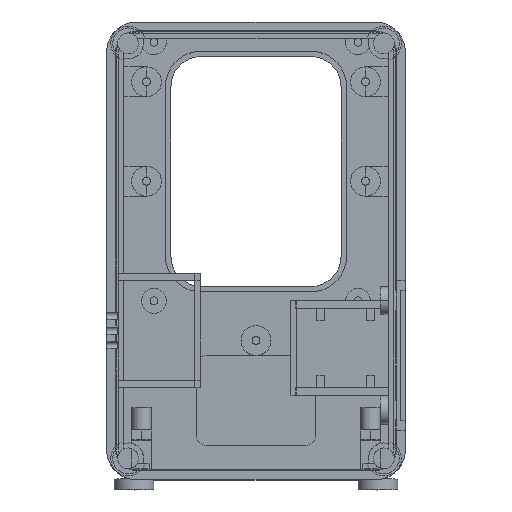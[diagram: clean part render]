
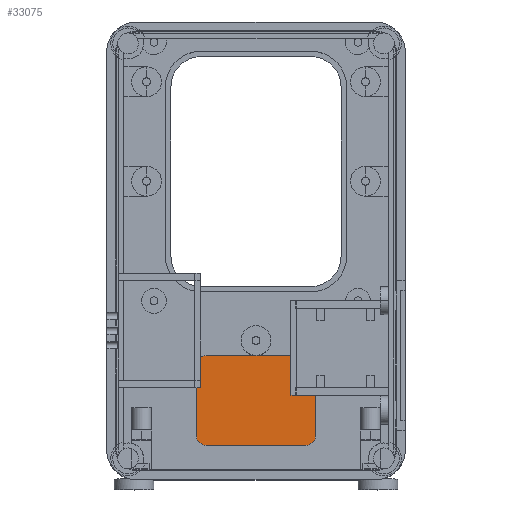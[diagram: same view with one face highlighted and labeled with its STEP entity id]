
A CAD part, top view. The second image highlights one B-rep face of the part: STEP entity #33075.
In plain terms, the highlighted planar face has unit normal (0, 0, 1).
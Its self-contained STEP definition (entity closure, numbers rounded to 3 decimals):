
#21439 = CYLINDRICAL_SURFACE('',#21440,2.);
#21440 = AXIS2_PLACEMENT_3D('',#21441,#21442,#21443);
#21441 = CARTESIAN_POINT('',(20.,23.,1.2));
#21442 = DIRECTION('',(-0.,0.,-1.));
#21443 = DIRECTION('',(0.,1.,0.));
#21466 = PLANE('',#21467);
#21467 = AXIS2_PLACEMENT_3D('',#21468,#21469,#21470);
#21468 = CARTESIAN_POINT('',(40.,25.,1.2));
#21469 = DIRECTION('',(0.,-1.,0.));
#21470 = DIRECTION('',(-1.,0.,0.));
#21519 = CYLINDRICAL_SURFACE('',#21520,2.);
#21520 = AXIS2_PLACEMENT_3D('',#21521,#21522,#21523);
#21521 = CARTESIAN_POINT('',(40.,23.,1.2));
#21522 = DIRECTION('',(-0.,-0.,-1.));
#21523 = DIRECTION('',(1.,0.,-0.));
#21546 = PLANE('',#21547);
#21547 = AXIS2_PLACEMENT_3D('',#21548,#21549,#21550);
#21548 = CARTESIAN_POINT('',(42.,9.,1.2));
#21549 = DIRECTION('',(-1.,0.,0.));
#21550 = DIRECTION('',(0.,1.,0.));
#21578 = CYLINDRICAL_SURFACE('',#21579,2.);
#21579 = AXIS2_PLACEMENT_3D('',#21580,#21581,#21582);
#21580 = CARTESIAN_POINT('',(40.,9.,1.2));
#21581 = DIRECTION('',(-0.,-0.,-1.));
#21582 = DIRECTION('',(0.,-1.,0.));
#21605 = PLANE('',#21606);
#21606 = AXIS2_PLACEMENT_3D('',#21607,#21608,#21609);
#21607 = CARTESIAN_POINT('',(20.,7.,1.2));
#21608 = DIRECTION('',(0.,1.,0.));
#21609 = DIRECTION('',(1.,0.,0.));
#21637 = CYLINDRICAL_SURFACE('',#21638,2.);
#21638 = AXIS2_PLACEMENT_3D('',#21639,#21640,#21641);
#21639 = CARTESIAN_POINT('',(20.,9.,1.2));
#21640 = DIRECTION('',(-0.,-0.,-1.));
#21641 = DIRECTION('',(-1.,0.,0.));
#21662 = PLANE('',#21663);
#21663 = AXIS2_PLACEMENT_3D('',#21664,#21665,#21666);
#21664 = CARTESIAN_POINT('',(18.,23.,1.2));
#21665 = DIRECTION('',(1.,0.,-0.));
#21666 = DIRECTION('',(0.,-1.,0.));
#27566 = EDGE_CURVE('',#27567,#27569,#27571,.T.);
#27567 = VERTEX_POINT('',#27568);
#27568 = CARTESIAN_POINT('',(20.,25.,1.2));
#27569 = VERTEX_POINT('',#27570);
#27570 = CARTESIAN_POINT('',(18.,23.,1.2));
#27571 = SURFACE_CURVE('',#27572,(#27577,#27584),.PCURVE_S1.);
#27572 = CIRCLE('',#27573,2.);
#27573 = AXIS2_PLACEMENT_3D('',#27574,#27575,#27576);
#27574 = CARTESIAN_POINT('',(20.,23.,1.2));
#27575 = DIRECTION('',(0.,-0.,1.));
#27576 = DIRECTION('',(0.,1.,0.));
#27577 = PCURVE('',#21439,#27578);
#27578 = DEFINITIONAL_REPRESENTATION('',(#27579),#27583);
#27579 = LINE('',#27580,#27581);
#27580 = CARTESIAN_POINT('',(-0.,0.));
#27581 = VECTOR('',#27582,1.);
#27582 = DIRECTION('',(-1.,0.));
#27583 = ( GEOMETRIC_REPRESENTATION_CONTEXT(2) 
PARAMETRIC_REPRESENTATION_CONTEXT() REPRESENTATION_CONTEXT('2D SPACE',''
  ) );
#27584 = PCURVE('',#27585,#27590);
#27585 = PLANE('',#27586);
#27586 = AXIS2_PLACEMENT_3D('',#27587,#27588,#27589);
#27587 = CARTESIAN_POINT('',(30.,16.,1.2));
#27588 = DIRECTION('',(0.,0.,1.));
#27589 = DIRECTION('',(1.,0.,-0.));
#27590 = DEFINITIONAL_REPRESENTATION('',(#27591),#27595);
#27591 = CIRCLE('',#27592,2.);
#27592 = AXIS2_PLACEMENT_2D('',#27593,#27594);
#27593 = CARTESIAN_POINT('',(-10.,7.));
#27594 = DIRECTION('',(0.,1.));
#27595 = ( GEOMETRIC_REPRESENTATION_CONTEXT(2) 
PARAMETRIC_REPRESENTATION_CONTEXT() REPRESENTATION_CONTEXT('2D SPACE',''
  ) );
#27643 = EDGE_CURVE('',#27569,#27644,#27646,.T.);
#27644 = VERTEX_POINT('',#27645);
#27645 = CARTESIAN_POINT('',(18.,9.,1.2));
#27646 = SURFACE_CURVE('',#27647,(#27651,#27658),.PCURVE_S1.);
#27647 = LINE('',#27648,#27649);
#27648 = CARTESIAN_POINT('',(18.,23.,1.2));
#27649 = VECTOR('',#27650,1.);
#27650 = DIRECTION('',(0.,-1.,0.));
#27651 = PCURVE('',#21662,#27652);
#27652 = DEFINITIONAL_REPRESENTATION('',(#27653),#27657);
#27653 = LINE('',#27654,#27655);
#27654 = CARTESIAN_POINT('',(0.,0.));
#27655 = VECTOR('',#27656,1.);
#27656 = DIRECTION('',(1.,0.));
#27657 = ( GEOMETRIC_REPRESENTATION_CONTEXT(2) 
PARAMETRIC_REPRESENTATION_CONTEXT() REPRESENTATION_CONTEXT('2D SPACE',''
  ) );
#27658 = PCURVE('',#27585,#27659);
#27659 = DEFINITIONAL_REPRESENTATION('',(#27660),#27664);
#27660 = LINE('',#27661,#27662);
#27661 = CARTESIAN_POINT('',(-12.,7.));
#27662 = VECTOR('',#27663,1.);
#27663 = DIRECTION('',(0.,-1.));
#27664 = ( GEOMETRIC_REPRESENTATION_CONTEXT(2) 
PARAMETRIC_REPRESENTATION_CONTEXT() REPRESENTATION_CONTEXT('2D SPACE',''
  ) );
#27692 = EDGE_CURVE('',#27644,#27693,#27695,.T.);
#27693 = VERTEX_POINT('',#27694);
#27694 = CARTESIAN_POINT('',(20.,7.,1.2));
#27695 = SURFACE_CURVE('',#27696,(#27701,#27708),.PCURVE_S1.);
#27696 = CIRCLE('',#27697,2.);
#27697 = AXIS2_PLACEMENT_3D('',#27698,#27699,#27700);
#27698 = CARTESIAN_POINT('',(20.,9.,1.2));
#27699 = DIRECTION('',(0.,0.,1.));
#27700 = DIRECTION('',(-1.,0.,0.));
#27701 = PCURVE('',#21637,#27702);
#27702 = DEFINITIONAL_REPRESENTATION('',(#27703),#27707);
#27703 = LINE('',#27704,#27705);
#27704 = CARTESIAN_POINT('',(-0.,0.));
#27705 = VECTOR('',#27706,1.);
#27706 = DIRECTION('',(-1.,0.));
#27707 = ( GEOMETRIC_REPRESENTATION_CONTEXT(2) 
PARAMETRIC_REPRESENTATION_CONTEXT() REPRESENTATION_CONTEXT('2D SPACE',''
  ) );
#27708 = PCURVE('',#27585,#27709);
#27709 = DEFINITIONAL_REPRESENTATION('',(#27710),#27714);
#27710 = CIRCLE('',#27711,2.);
#27711 = AXIS2_PLACEMENT_2D('',#27712,#27713);
#27712 = CARTESIAN_POINT('',(-10.,-7.));
#27713 = DIRECTION('',(-1.,0.));
#27714 = ( GEOMETRIC_REPRESENTATION_CONTEXT(2) 
PARAMETRIC_REPRESENTATION_CONTEXT() REPRESENTATION_CONTEXT('2D SPACE',''
  ) );
#27742 = EDGE_CURVE('',#27693,#27743,#27745,.T.);
#27743 = VERTEX_POINT('',#27744);
#27744 = CARTESIAN_POINT('',(40.,7.,1.2));
#27745 = SURFACE_CURVE('',#27746,(#27750,#27757),.PCURVE_S1.);
#27746 = LINE('',#27747,#27748);
#27747 = CARTESIAN_POINT('',(20.,7.,1.2));
#27748 = VECTOR('',#27749,1.);
#27749 = DIRECTION('',(1.,0.,0.));
#27750 = PCURVE('',#21605,#27751);
#27751 = DEFINITIONAL_REPRESENTATION('',(#27752),#27756);
#27752 = LINE('',#27753,#27754);
#27753 = CARTESIAN_POINT('',(0.,0.));
#27754 = VECTOR('',#27755,1.);
#27755 = DIRECTION('',(1.,0.));
#27756 = ( GEOMETRIC_REPRESENTATION_CONTEXT(2) 
PARAMETRIC_REPRESENTATION_CONTEXT() REPRESENTATION_CONTEXT('2D SPACE',''
  ) );
#27757 = PCURVE('',#27585,#27758);
#27758 = DEFINITIONAL_REPRESENTATION('',(#27759),#27763);
#27759 = LINE('',#27760,#27761);
#27760 = CARTESIAN_POINT('',(-10.,-9.));
#27761 = VECTOR('',#27762,1.);
#27762 = DIRECTION('',(1.,0.));
#27763 = ( GEOMETRIC_REPRESENTATION_CONTEXT(2) 
PARAMETRIC_REPRESENTATION_CONTEXT() REPRESENTATION_CONTEXT('2D SPACE',''
  ) );
#27791 = EDGE_CURVE('',#27743,#27792,#27794,.T.);
#27792 = VERTEX_POINT('',#27793);
#27793 = CARTESIAN_POINT('',(42.,9.,1.2));
#27794 = SURFACE_CURVE('',#27795,(#27800,#27807),.PCURVE_S1.);
#27795 = CIRCLE('',#27796,2.);
#27796 = AXIS2_PLACEMENT_3D('',#27797,#27798,#27799);
#27797 = CARTESIAN_POINT('',(40.,9.,1.2));
#27798 = DIRECTION('',(0.,0.,1.));
#27799 = DIRECTION('',(0.,-1.,0.));
#27800 = PCURVE('',#21578,#27801);
#27801 = DEFINITIONAL_REPRESENTATION('',(#27802),#27806);
#27802 = LINE('',#27803,#27804);
#27803 = CARTESIAN_POINT('',(-0.,0.));
#27804 = VECTOR('',#27805,1.);
#27805 = DIRECTION('',(-1.,0.));
#27806 = ( GEOMETRIC_REPRESENTATION_CONTEXT(2) 
PARAMETRIC_REPRESENTATION_CONTEXT() REPRESENTATION_CONTEXT('2D SPACE',''
  ) );
#27807 = PCURVE('',#27585,#27808);
#27808 = DEFINITIONAL_REPRESENTATION('',(#27809),#27813);
#27809 = CIRCLE('',#27810,2.);
#27810 = AXIS2_PLACEMENT_2D('',#27811,#27812);
#27811 = CARTESIAN_POINT('',(10.,-7.));
#27812 = DIRECTION('',(0.,-1.));
#27813 = ( GEOMETRIC_REPRESENTATION_CONTEXT(2) 
PARAMETRIC_REPRESENTATION_CONTEXT() REPRESENTATION_CONTEXT('2D SPACE',''
  ) );
#27841 = EDGE_CURVE('',#27792,#27842,#27844,.T.);
#27842 = VERTEX_POINT('',#27843);
#27843 = CARTESIAN_POINT('',(42.,23.,1.2));
#27844 = SURFACE_CURVE('',#27845,(#27849,#27856),.PCURVE_S1.);
#27845 = LINE('',#27846,#27847);
#27846 = CARTESIAN_POINT('',(42.,9.,1.2));
#27847 = VECTOR('',#27848,1.);
#27848 = DIRECTION('',(0.,1.,0.));
#27849 = PCURVE('',#21546,#27850);
#27850 = DEFINITIONAL_REPRESENTATION('',(#27851),#27855);
#27851 = LINE('',#27852,#27853);
#27852 = CARTESIAN_POINT('',(0.,0.));
#27853 = VECTOR('',#27854,1.);
#27854 = DIRECTION('',(1.,0.));
#27855 = ( GEOMETRIC_REPRESENTATION_CONTEXT(2) 
PARAMETRIC_REPRESENTATION_CONTEXT() REPRESENTATION_CONTEXT('2D SPACE',''
  ) );
#27856 = PCURVE('',#27585,#27857);
#27857 = DEFINITIONAL_REPRESENTATION('',(#27858),#27862);
#27858 = LINE('',#27859,#27860);
#27859 = CARTESIAN_POINT('',(12.,-7.));
#27860 = VECTOR('',#27861,1.);
#27861 = DIRECTION('',(0.,1.));
#27862 = ( GEOMETRIC_REPRESENTATION_CONTEXT(2) 
PARAMETRIC_REPRESENTATION_CONTEXT() REPRESENTATION_CONTEXT('2D SPACE',''
  ) );
#27890 = EDGE_CURVE('',#27842,#27891,#27893,.T.);
#27891 = VERTEX_POINT('',#27892);
#27892 = CARTESIAN_POINT('',(40.,25.,1.2));
#27893 = SURFACE_CURVE('',#27894,(#27899,#27906),.PCURVE_S1.);
#27894 = CIRCLE('',#27895,2.);
#27895 = AXIS2_PLACEMENT_3D('',#27896,#27897,#27898);
#27896 = CARTESIAN_POINT('',(40.,23.,1.2));
#27897 = DIRECTION('',(0.,0.,1.));
#27898 = DIRECTION('',(1.,0.,-0.));
#27899 = PCURVE('',#21519,#27900);
#27900 = DEFINITIONAL_REPRESENTATION('',(#27901),#27905);
#27901 = LINE('',#27902,#27903);
#27902 = CARTESIAN_POINT('',(-0.,0.));
#27903 = VECTOR('',#27904,1.);
#27904 = DIRECTION('',(-1.,0.));
#27905 = ( GEOMETRIC_REPRESENTATION_CONTEXT(2) 
PARAMETRIC_REPRESENTATION_CONTEXT() REPRESENTATION_CONTEXT('2D SPACE',''
  ) );
#27906 = PCURVE('',#27585,#27907);
#27907 = DEFINITIONAL_REPRESENTATION('',(#27908),#27912);
#27908 = CIRCLE('',#27909,2.);
#27909 = AXIS2_PLACEMENT_2D('',#27910,#27911);
#27910 = CARTESIAN_POINT('',(10.,7.));
#27911 = DIRECTION('',(1.,0.));
#27912 = ( GEOMETRIC_REPRESENTATION_CONTEXT(2) 
PARAMETRIC_REPRESENTATION_CONTEXT() REPRESENTATION_CONTEXT('2D SPACE',''
  ) );
#27940 = EDGE_CURVE('',#27891,#27567,#27941,.T.);
#27941 = SURFACE_CURVE('',#27942,(#27946,#27953),.PCURVE_S1.);
#27942 = LINE('',#27943,#27944);
#27943 = CARTESIAN_POINT('',(40.,25.,1.2));
#27944 = VECTOR('',#27945,1.);
#27945 = DIRECTION('',(-1.,0.,0.));
#27946 = PCURVE('',#21466,#27947);
#27947 = DEFINITIONAL_REPRESENTATION('',(#27948),#27952);
#27948 = LINE('',#27949,#27950);
#27949 = CARTESIAN_POINT('',(0.,-0.));
#27950 = VECTOR('',#27951,1.);
#27951 = DIRECTION('',(1.,0.));
#27952 = ( GEOMETRIC_REPRESENTATION_CONTEXT(2) 
PARAMETRIC_REPRESENTATION_CONTEXT() REPRESENTATION_CONTEXT('2D SPACE',''
  ) );
#27953 = PCURVE('',#27585,#27954);
#27954 = DEFINITIONAL_REPRESENTATION('',(#27955),#27959);
#27955 = LINE('',#27956,#27957);
#27956 = CARTESIAN_POINT('',(10.,9.));
#27957 = VECTOR('',#27958,1.);
#27958 = DIRECTION('',(-1.,0.));
#27959 = ( GEOMETRIC_REPRESENTATION_CONTEXT(2) 
PARAMETRIC_REPRESENTATION_CONTEXT() REPRESENTATION_CONTEXT('2D SPACE',''
  ) );
#33075 = ADVANCED_FACE('',(#33076),#27585,.T.);
#33076 = FACE_BOUND('',#33077,.T.);
#33077 = EDGE_LOOP('',(#33078,#33079,#33080,#33081,#33082,#33083,#33084,
    #33085));
#33078 = ORIENTED_EDGE('',*,*,#27742,.T.);
#33079 = ORIENTED_EDGE('',*,*,#27791,.T.);
#33080 = ORIENTED_EDGE('',*,*,#27841,.T.);
#33081 = ORIENTED_EDGE('',*,*,#27890,.T.);
#33082 = ORIENTED_EDGE('',*,*,#27940,.T.);
#33083 = ORIENTED_EDGE('',*,*,#27566,.T.);
#33084 = ORIENTED_EDGE('',*,*,#27643,.T.);
#33085 = ORIENTED_EDGE('',*,*,#27692,.T.);
